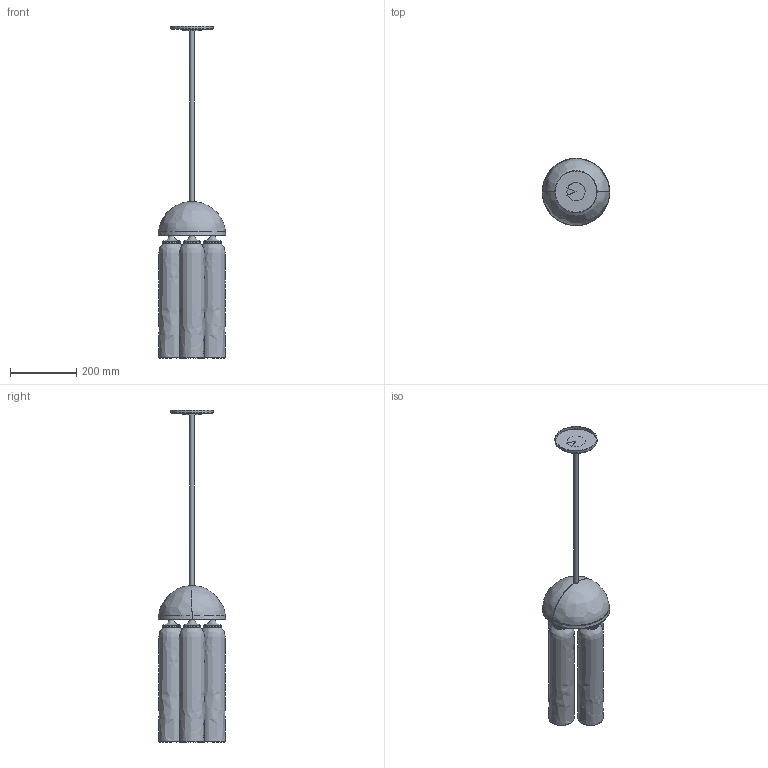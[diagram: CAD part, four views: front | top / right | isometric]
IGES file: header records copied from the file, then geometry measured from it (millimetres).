
Global section: file name: /Users/danielszollosi/Documents/SkLO/Sklo.com/3D models/WEB 3D Models/SkLO_AvroKO_CrownPendantShort_3D_LT634.igs; native system: Rhinoceros ( Dec  3 2024 ); preprocessor: Trout Lake IGES 012 Dec  3 2024; date: 250805.150120; units: millimetre
Bounding box: 203 x 202.97 x 1000.29 mm (x, y, z)
Surface area: 978714.4 mm2 (no closed solid volume)
Topology: 0 solids, 0 shells, 262 faces, 1193 edges, 1038 vertices
Faces by surface type: bspline 262
